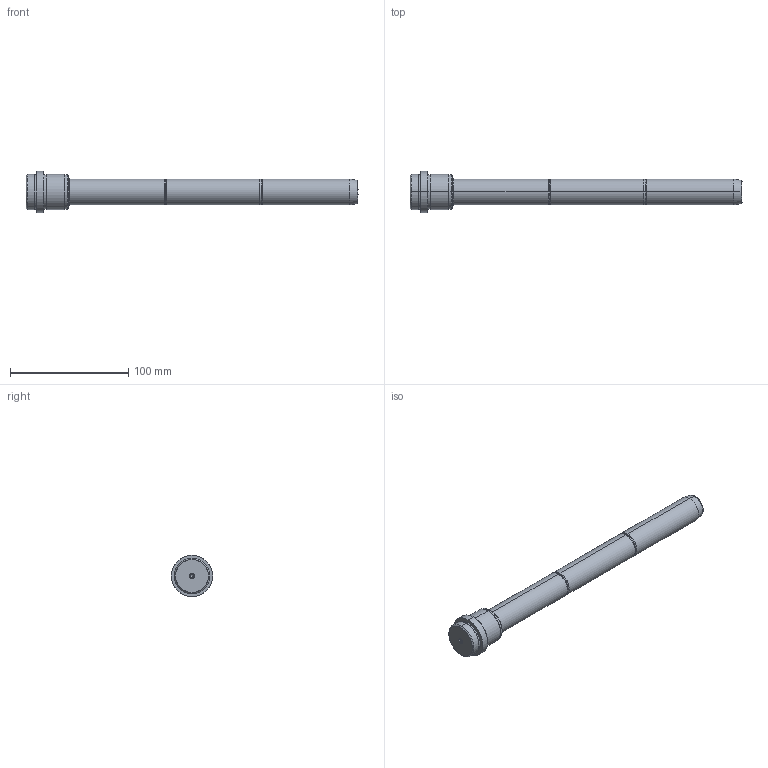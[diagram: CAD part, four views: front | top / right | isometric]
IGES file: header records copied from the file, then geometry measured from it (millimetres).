
Start section: SolidWorks IGES FILE using analytic representation for surfaces
Global section: file name: D:\zzzzz\Delta\D03\22\D03 - 22x27x245.IGS; native system: SolidWorks 2004 by SolidWorks Corporation; preprocessor: Version 5.3; author: Hkn; date: 080327.170214; units: millimetre
Bounding box: 281 x 35 x 35 mm (x, y, z)
Surface area: 22343.2 mm2 (no closed solid volume)
Topology: 0 solids, 0 shells, 56 faces, 1056 edges, 1052 vertices
Faces by surface type: revolution 36, bspline 20
